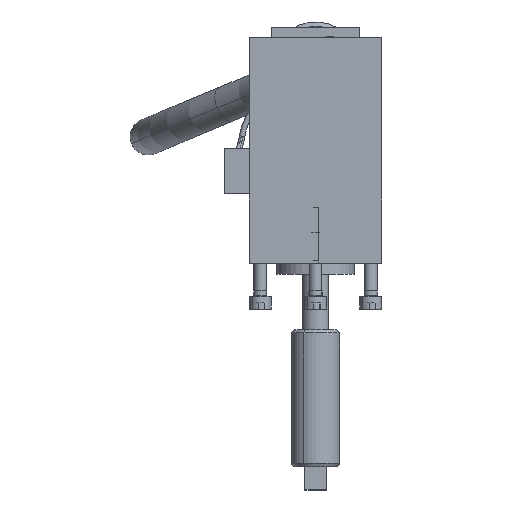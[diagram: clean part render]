
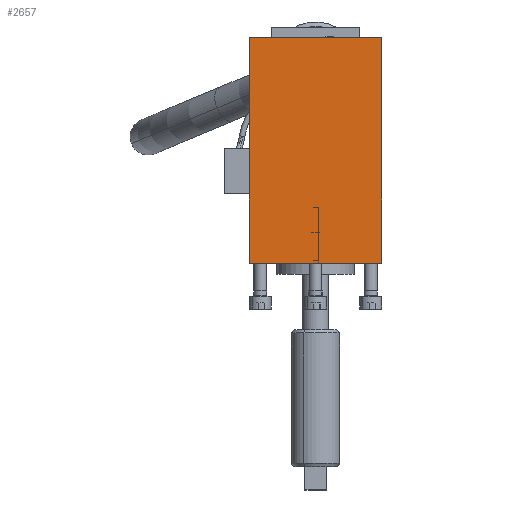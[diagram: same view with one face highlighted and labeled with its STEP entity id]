
A CAD part, top view. The second image highlights one B-rep face of the part: STEP entity #2657.
In plain terms, the highlighted planar face has unit normal (0, 0, 1).
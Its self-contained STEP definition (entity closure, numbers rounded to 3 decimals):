
#2161=CARTESIAN_POINT('Vertex',(30.,-42.,371.12)) ;
#2166=CARTESIAN_POINT('Line Origine',(0.,-42.,371.12)) ;
#2170=CARTESIAN_POINT('Vertex',(-30.,-42.,371.12)) ;
#2599=CARTESIAN_POINT('Line Origine',(-30.,9.,371.12)) ;
#2603=CARTESIAN_POINT('Vertex',(-30.,60.,371.12)) ;
#2634=CARTESIAN_POINT('Axis2P3D Location',(-30.,60.,371.12)) ;
#2639=CARTESIAN_POINT('Line Origine',(30.,9.,371.12)) ;
#2643=CARTESIAN_POINT('Vertex',(30.,60.,371.12)) ;
#2646=CARTESIAN_POINT('Line Origine',(0.,60.,371.12)) ;
#2167=DIRECTION('Vector Direction',(1.,0.,0.)) ;
#2600=DIRECTION('Vector Direction',(0.,-1.,0.)) ;
#2635=DIRECTION('Axis2P3D Direction',(0.,0.,-1.)) ;
#2636=DIRECTION('Axis2P3D XDirection',(1.,0.,0.)) ;
#2640=DIRECTION('Vector Direction',(0.,-1.,0.)) ;
#2647=DIRECTION('Vector Direction',(1.,0.,0.)) ;
#2637=AXIS2_PLACEMENT_3D('Plane Axis2P3D',#2634,#2635,#2636) ;
#2652=ORIENTED_EDGE('',*,*,#2172,.T.) ;
#2653=ORIENTED_EDGE('',*,*,#2645,.F.) ;
#2654=ORIENTED_EDGE('',*,*,#2650,.F.) ;
#2655=ORIENTED_EDGE('',*,*,#2605,.T.) ;
#2168=VECTOR('Line Direction',#2167,1.) ;
#2601=VECTOR('Line Direction',#2600,1.) ;
#2641=VECTOR('Line Direction',#2640,1.) ;
#2648=VECTOR('Line Direction',#2647,1.) ;
#2657=ADVANCED_FACE('',(#2656),#2638,.F.) ;
#2172=EDGE_CURVE('',#2171,#2162,#2169,.T.) ;
#2605=EDGE_CURVE('',#2604,#2171,#2602,.T.) ;
#2645=EDGE_CURVE('',#2644,#2162,#2642,.T.) ;
#2650=EDGE_CURVE('',#2604,#2644,#2649,.T.) ;
#2651=EDGE_LOOP('',(#2652,#2653,#2654,#2655)) ;
#2656=FACE_OUTER_BOUND('',#2651,.T.) ;
#2169=LINE('Line',#2166,#2168) ;
#2602=LINE('Line',#2599,#2601) ;
#2642=LINE('Line',#2639,#2641) ;
#2649=LINE('Line',#2646,#2648) ;
#2638=PLANE('Plane',#2637) ;
#2162=VERTEX_POINT('',#2161) ;
#2171=VERTEX_POINT('',#2170) ;
#2604=VERTEX_POINT('',#2603) ;
#2644=VERTEX_POINT('',#2643) ;
